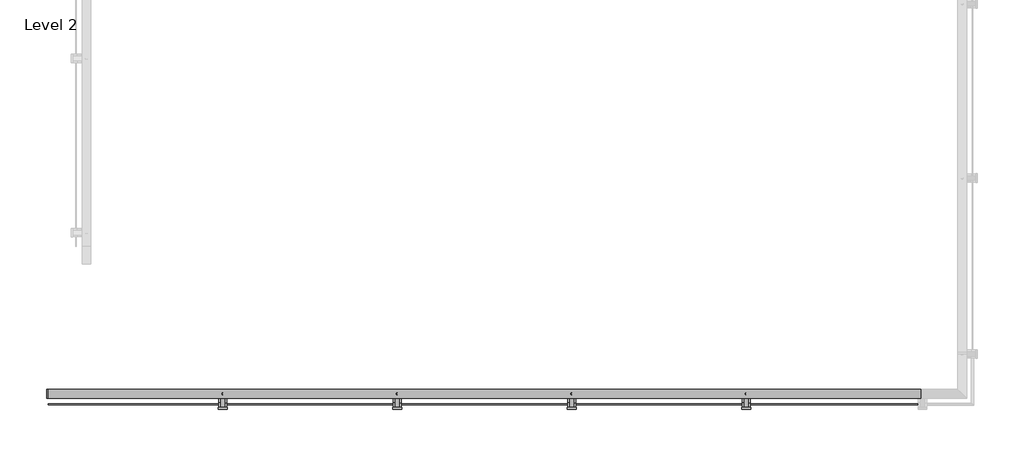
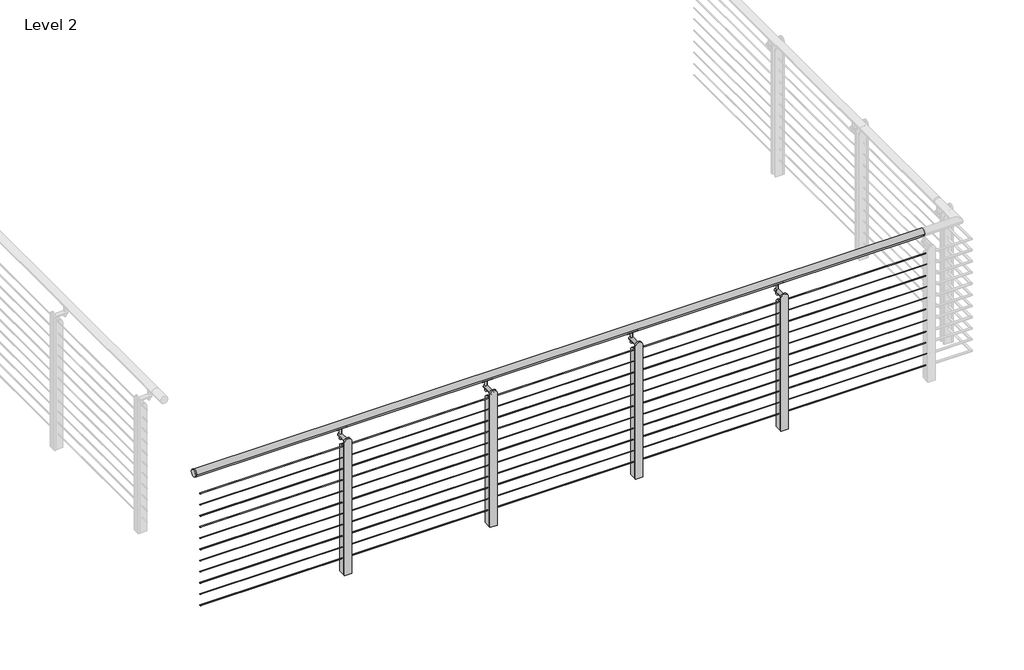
# One storey, part 10 of 12: 1 railing.
"""IFC4 building model written with IfcOpenShell, lengths in millimetres."""

from ifc_helpers import new_model, si_unit, point, frame, frame_2d, origin, place, context, project, spatial, polyline, circle_curve, trimmed, segment, composite_curve, outline, extrude, element, save
from ifc_brep_helpers import plane_surface, cylinder_surface, advanced_brep

model = new_model("IFC4")

# Units and contexts
model_context = context("Model", 3, world=origin())
ifc_project = project(units=[si_unit("LENGTHUNIT", "METRE", prefix="MILLI")], contexts=[model_context])

# Site, building, storey
site = spatial("IfcSite", under=ifc_project)
building = spatial("IfcBuilding", under=site)
storey = spatial("IfcBuildingStorey", under=building, Name="Level 2", Elevation=3048.0)

# Railing
placement = place(None, origin())
element("IfcRailing", 1, ObjectType="VIVA-TEE-Cable-Weld Mount-Straight", at=placement, inside=storey, context=model_context, shape_type="SolidModel", body=[
    advanced_brep(
    [(-4015.9071725, -1118.6784511, 4102.1), (-4015.9071725, -1067.8784511, 4102.1), (-9095.9071725, -1067.8784511, 4102.1), (-9095.9071725, -1118.6784511, 4102.1), (-9106.3387971, -1118.6784511, 4102.1), (-9106.3387971, -1067.8784511, 4102.1)],
    [
        (0, 1, circle_curve(frame((-4015.9071725, -1093.2784511, 4102.1), z_axis=(1.0, 0.0, 0.0), x_axis=(0.0, 1.0, 0.0)), 25.4)),
        (1, 0, circle_curve(frame((-4015.9071725, -1093.2784511, 4102.1), z_axis=(1.0, 0.0, 0.0), x_axis=(0.0, 1.0, 0.0)), 25.4)),
        (2, 3, circle_curve(frame((-9095.9071725, -1093.2784511, 4102.1), z_axis=(1.0, 0.0, 0.0), x_axis=(0.0, 1.0, 0.0)), 25.4)),
        (3, 0),
        (1, 2),
        (3, 2, circle_curve(frame((-9095.9071725, -1093.2784511, 4102.1), z_axis=(1.0, 0.0, 0.0), x_axis=(0.0, 1.0, 0.0)), 25.4)),
        (4, 5, circle_curve(frame((-9106.3387971, -1093.2784511, 4102.1), z_axis=(-1.0, 0.0, 0.0), x_axis=(0.0, 1.0, 0.0)), 25.4)),
        (5, 4, circle_curve(frame((-9106.3387971, -1093.2784511, 4102.1), z_axis=(-1.0, 0.0, 0.0), x_axis=(0.0, 1.0, 0.0)), 25.4)),
        (4, 3),
        (2, 5),
    ],
    [
        plane_surface(frame((-4015.9071725, -1093.2784511, 4127.5), z_axis=(1.0, 0.0, 0.0), x_axis=(0.0, 1.0, 0.0))),
        cylinder_surface(frame((-9095.9071725, -1093.2784511, 4102.1), z_axis=(-1.0, 0.0, 0.0), x_axis=(0.0, 1.0, 0.0)), 25.4),
        plane_surface(frame((-9106.3387971, -1093.2784511, 4127.5), z_axis=(-1.0, 0.0, 0.0), x_axis=(0.0, 1.0, 0.0))),
        cylinder_surface(frame((-9106.3387971, -1093.2784511, 4102.1), z_axis=(-1.0, 0.0, 0.0), x_axis=(0.0, 1.0, 0.0)), 25.4),
    ],
    [
        (0, [[1, 2]]),
        (1, [[3, 4, -2, 5]]),
        (1, [[6, -5, -1, -4]]),
        (2, [[7, 8]]),
        (3, [[-7, 9, -3, 10]]),
        (3, [[-8, -10, -6, -9]]),
    ],
),
    extrude(outline(composite_curve([segment(trimmed(circle_curve(frame_2d((-1153.6034511, 3985.4124)), 2.3876), [point((-1151.2158511, 3985.4124))], [point((-1155.9910511, 3985.4124))], False, "CARTESIAN"), True, "CONTINUOUS"), segment(trimmed(circle_curve(frame_2d((-1153.6034511, 3985.4124)), 2.3876), [point((-1155.9910511, 3985.4124))], [point((-1151.2158511, 3985.4124))], False, "CARTESIAN"), True, "CONTINUOUS")], self_intersect=False)), frame((-9095.9071725, 0.0, 0.0), z_axis=(1.0, 0.0, 0.0), x_axis=(0.0, 1.0, 0.0)), (0.0, 0.0, 1.0), 5080.0),
    extrude(outline(composite_curve([segment(trimmed(circle_curve(frame_2d((-1153.6034511, 3902.8624)), 2.3876), [point((-1151.2158511, 3902.8624))], [point((-1155.9910511, 3902.8624))], False, "CARTESIAN"), True, "CONTINUOUS"), segment(trimmed(circle_curve(frame_2d((-1153.6034511, 3902.8624)), 2.3876), [point((-1155.9910511, 3902.8624))], [point((-1151.2158511, 3902.8624))], False, "CARTESIAN"), True, "CONTINUOUS")], self_intersect=False)), frame((-9095.9071725, 0.0, 0.0), z_axis=(1.0, 0.0, 0.0), x_axis=(0.0, 1.0, 0.0)), (0.0, 0.0, 1.0), 5080.0),
    extrude(outline(composite_curve([segment(trimmed(circle_curve(frame_2d((-1153.6034511, 3820.3124)), 2.3876), [point((-1151.2158511, 3820.3124))], [point((-1155.9910511, 3820.3124))], False, "CARTESIAN"), True, "CONTINUOUS"), segment(trimmed(circle_curve(frame_2d((-1153.6034511, 3820.3124)), 2.3876), [point((-1155.9910511, 3820.3124))], [point((-1151.2158511, 3820.3124))], False, "CARTESIAN"), True, "CONTINUOUS")], self_intersect=False)), frame((-9095.9071725, 0.0, 0.0), z_axis=(1.0, 0.0, 0.0), x_axis=(0.0, 1.0, 0.0)), (0.0, 0.0, 1.0), 5080.0),
    extrude(outline(composite_curve([segment(trimmed(circle_curve(frame_2d((-1153.6034511, 3737.7624)), 2.3876), [point((-1151.2158511, 3737.7624))], [point((-1155.9910511, 3737.7624))], False, "CARTESIAN"), True, "CONTINUOUS"), segment(trimmed(circle_curve(frame_2d((-1153.6034511, 3737.7624)), 2.3876), [point((-1155.9910511, 3737.7624))], [point((-1151.2158511, 3737.7624))], False, "CARTESIAN"), True, "CONTINUOUS")], self_intersect=False)), frame((-9095.9071725, 0.0, 0.0), z_axis=(1.0, 0.0, 0.0), x_axis=(0.0, 1.0, 0.0)), (0.0, 0.0, 1.0), 5080.0),
    extrude(outline(composite_curve([segment(trimmed(circle_curve(frame_2d((-1153.6034511, 3655.2124)), 2.3876), [point((-1151.2158511, 3655.2124))], [point((-1155.9910511, 3655.2124))], False, "CARTESIAN"), True, "CONTINUOUS"), segment(trimmed(circle_curve(frame_2d((-1153.6034511, 3655.2124)), 2.3876), [point((-1155.9910511, 3655.2124))], [point((-1151.2158511, 3655.2124))], False, "CARTESIAN"), True, "CONTINUOUS")], self_intersect=False)), frame((-9095.9071725, 0.0, 0.0), z_axis=(1.0, 0.0, 0.0), x_axis=(0.0, 1.0, 0.0)), (0.0, 0.0, 1.0), 5080.0),
    extrude(outline(composite_curve([segment(trimmed(circle_curve(frame_2d((-1153.6034511, 3572.6624)), 2.3876), [point((-1151.2158511, 3572.6624))], [point((-1155.9910511, 3572.6624))], False, "CARTESIAN"), True, "CONTINUOUS"), segment(trimmed(circle_curve(frame_2d((-1153.6034511, 3572.6624)), 2.3876), [point((-1155.9910511, 3572.6624))], [point((-1151.2158511, 3572.6624))], False, "CARTESIAN"), True, "CONTINUOUS")], self_intersect=False)), frame((-9095.9071725, 0.0, 0.0), z_axis=(1.0, 0.0, 0.0), x_axis=(0.0, 1.0, 0.0)), (0.0, 0.0, 1.0), 5080.0),
    extrude(outline(composite_curve([segment(trimmed(circle_curve(frame_2d((-1153.6034511, 3490.1124)), 2.3876), [point((-1151.2158511, 3490.1124))], [point((-1155.9910511, 3490.1124))], False, "CARTESIAN"), True, "CONTINUOUS"), segment(trimmed(circle_curve(frame_2d((-1153.6034511, 3490.1124)), 2.3876), [point((-1155.9910511, 3490.1124))], [point((-1151.2158511, 3490.1124))], False, "CARTESIAN"), True, "CONTINUOUS")], self_intersect=False)), frame((-9095.9071725, 0.0, 0.0), z_axis=(1.0, 0.0, 0.0), x_axis=(0.0, 1.0, 0.0)), (0.0, 0.0, 1.0), 5080.0),
    extrude(outline(composite_curve([segment(trimmed(circle_curve(frame_2d((-1153.6034511, 3407.5624)), 2.3876), [point((-1151.2158511, 3407.5624))], [point((-1155.9910511, 3407.5624))], False, "CARTESIAN"), True, "CONTINUOUS"), segment(trimmed(circle_curve(frame_2d((-1153.6034511, 3407.5624)), 2.3876), [point((-1155.9910511, 3407.5624))], [point((-1151.2158511, 3407.5624))], False, "CARTESIAN"), True, "CONTINUOUS")], self_intersect=False)), frame((-9095.9071725, 0.0, 0.0), z_axis=(1.0, 0.0, 0.0), x_axis=(0.0, 1.0, 0.0)), (0.0, 0.0, 1.0), 5080.0),
    extrude(outline(composite_curve([segment(trimmed(circle_curve(frame_2d((-1153.6034511, 3325.0124)), 2.3876), [point((-1151.2158511, 3325.0124))], [point((-1155.9910511, 3325.0124))], False, "CARTESIAN"), True, "CONTINUOUS"), segment(trimmed(circle_curve(frame_2d((-1153.6034511, 3325.0124)), 2.3876), [point((-1155.9910511, 3325.0124))], [point((-1151.2158511, 3325.0124))], False, "CARTESIAN"), True, "CONTINUOUS")], self_intersect=False)), frame((-9095.9071725, 0.0, 0.0), z_axis=(1.0, 0.0, 0.0), x_axis=(0.0, 1.0, 0.0)), (0.0, 0.0, 1.0), 5080.0),
    extrude(outline(composite_curve([segment(trimmed(circle_curve(frame_2d((-1153.6034511, 3242.4624)), 2.3876), [point((-1151.2158511, 3242.4624))], [point((-1155.9910511, 3242.4624))], False, "CARTESIAN"), True, "CONTINUOUS"), segment(trimmed(circle_curve(frame_2d((-1153.6034511, 3242.4624)), 2.3876), [point((-1155.9910511, 3242.4624))], [point((-1151.2158511, 3242.4624))], False, "CARTESIAN"), True, "CONTINUOUS")], self_intersect=False)), frame((-9095.9071725, 0.0, 0.0), z_axis=(1.0, 0.0, 0.0), x_axis=(0.0, 1.0, 0.0)), (0.0, 0.0, 1.0), 5080.0),
    extrude(outline(composite_curve([segment(trimmed(circle_curve(frame_2d((-1153.6034511, 3159.9124)), 2.3876), [point((-1151.2158511, 3159.9124))], [point((-1155.9910511, 3159.9124))], False, "CARTESIAN"), True, "CONTINUOUS"), segment(trimmed(circle_curve(frame_2d((-1153.6034511, 3159.9124)), 2.3876), [point((-1155.9910511, 3159.9124))], [point((-1151.2158511, 3159.9124))], False, "CARTESIAN"), True, "CONTINUOUS")], self_intersect=False)), frame((-9095.9071725, 0.0, 0.0), z_axis=(1.0, 0.0, 0.0), x_axis=(0.0, 1.0, 0.0)), (0.0, 0.0, 1.0), 5080.0),
    extrude(outline(composite_curve([segment(trimmed(circle_curve(frame_2d((0.0, 7.0)), 7.0), [point((0.0, 14.0))], [point((0.0, 0.0))], False, "CARTESIAN"), True, "CONTINUOUS"), segment(trimmed(circle_curve(frame_2d((0.0, 7.0)), 7.0), [point((0.0, 0.0))], [point((0.0, 14.0))], False, "CARTESIAN"), True, "CONTINUOUS")], self_intersect=False)), frame((-5031.8334626, -1099.9883049, 3997.1832524), z_axis=(0.004253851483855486, 0.0, 0.9999909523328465), x_axis=(0.9999909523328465, 0.0, -0.004253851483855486)), (0.0, 0.0, 1.0), 75.97),
    extrude(outline(composite_curve([segment(trimmed(circle_curve(frame_2d((-1092.8469009, 4095.2025651)), 19.05), [point((-1106.3764891, 4081.7916463))], [point((-1079.3173126, 4081.7916463))], True, "CARTESIAN"), True, "CONTINUOUS"), segment(polyline([(-1079.3173126, 4081.7916463), (-1078.290923, 4080.7742593)]), True, "CONTINUOUS"), segment(trimmed(circle_curve(frame_2d((-1079.3469009, 4079.7089374)), 1.5), [point((-1078.290923, 4080.7742593))], [point((-1078.3614994, 4078.5780156))], False, "CARTESIAN"), True, "CONTINUOUS"), segment(trimmed(circle_curve(frame_2d((-1092.8469009, 4095.2025651)), 22.05), [point((-1078.3614994, 4078.5780156))], [point((-1107.3323023, 4078.5780156))], False, "CARTESIAN"), True, "CONTINUOUS"), segment(trimmed(circle_curve(frame_2d((-1106.3469009, 4079.7089374)), 1.5), [point((-1107.3323023, 4078.5780156))], [point((-1107.4028787, 4080.7742593))], False, "CARTESIAN"), True, "CONTINUOUS"), segment(polyline([(-1107.4028787, 4080.7742593), (-1106.3764891, 4081.7916463)]), True, "CONTINUOUS")], self_intersect=False)), frame((-5067.3719368, 0.0, 0.0), z_axis=(1.0, 0.0, 0.0), x_axis=(0.0, 1.0, 0.0)), (0.0, 0.0, 1.0), 74.5229187),
    extrude(outline(composite_curve([segment(trimmed(circle_curve(frame_2d((4024.1259188, -5031.6291322)), 12.5), [point((4024.1259188, -5044.1291322))], [point((4024.1259188, -5019.1291322))], False, "CARTESIAN"), True, "CONTINUOUS"), segment(trimmed(circle_curve(frame_2d((4024.1259188, -5031.6291322)), 12.5), [point((4024.1259188, -5019.1291322))], [point((4024.1259188, -5044.1291322))], False, "CARTESIAN"), True, "CONTINUOUS")], self_intersect=False)), frame((0.0, -1172.7542908, 0.0), z_axis=(0.0, 1.0, 0.0), x_axis=(0.0, 0.0, 1.0)), (0.0, 0.0, 1.0), 92.423),
    extrude(outline(composite_curve([segment(trimmed(circle_curve(frame_2d((-1146.5879996, 3972.2425)), 24.765), [point((-1146.5879996, 3997.0075))], [point((-1121.8229996, 3972.2425))], False, "CARTESIAN"), True, "CONTINUOUS"), segment(polyline([(-1121.8229996, 3972.2425), (-1121.8229996, 3048.0), (-1172.6534511, 3048.0), (-1172.6534511, 3997.0075), (-1146.5879996, 3997.0075)]), True, "CONTINUOUS")], self_intersect=False)), frame((-5017.506798, 0.0, 0.0), z_axis=(1.0, 0.0, 0.0), x_axis=(0.0, 1.0, 0.0)), (0.0, 0.0, 1.0), 9.525),
    extrude(outline(composite_curve([segment(polyline([(3048.0, -5006.1102975), (4027.17, -5006.1102975)]), True, "CONTINUOUS"), segment(trimmed(circle_curve(frame_2d((4027.17, -5031.5102975)), 25.4), [point((4027.17, -5006.1102975))], [point((4027.17, -5056.9102975))], False, "CARTESIAN"), True, "CONTINUOUS"), segment(polyline([(4027.17, -5056.9102975), (3048.0, -5056.9102975), (3048.0, -5006.1102975)]), True, "CONTINUOUS")], self_intersect=False)), frame((0.0, -1182.1784511, 0.0), z_axis=(0.0, 1.0, 0.0), x_axis=(0.0, 0.0, 1.0)), (0.0, 0.0, 1.0), 9.525),
    extrude(outline(composite_curve([segment(trimmed(circle_curve(frame_2d((-1146.5879996, 3972.2425)), 24.765), [point((-1146.5879996, 3997.0075))], [point((-1121.8229996, 3972.2425))], False, "CARTESIAN"), True, "CONTINUOUS"), segment(polyline([(-1121.8229996, 3972.2425), (-1121.8229996, 3048.0), (-1172.6534511, 3048.0), (-1172.6534511, 3997.0075), (-1146.5879996, 3997.0075)]), True, "CONTINUOUS")], self_intersect=False)), frame((-5055.0387971, 0.0, 0.0), z_axis=(1.0, 0.0, 0.0), x_axis=(0.0, 1.0, 0.0)), (0.0, 0.0, 1.0), 9.525),
    extrude(outline(composite_curve([segment(trimmed(circle_curve(frame_2d((0.0, 7.0)), 7.0), [point((0.0, 14.0))], [point((0.0, 0.0))], False, "CARTESIAN"), True, "CONTINUOUS"), segment(trimmed(circle_curve(frame_2d((0.0, 7.0)), 7.0), [point((0.0, 0.0))], [point((0.0, 14.0))], False, "CARTESIAN"), True, "CONTINUOUS")], self_intersect=False)), frame((-6047.8334626, -1099.9883049, 3997.1832524), z_axis=(0.004253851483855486, 0.0, 0.9999909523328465), x_axis=(0.9999909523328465, 0.0, -0.004253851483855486)), (0.0, 0.0, 1.0), 75.97),
    extrude(outline(composite_curve([segment(trimmed(circle_curve(frame_2d((-1092.8469009, 4095.2025651)), 19.05), [point((-1106.3764891, 4081.7916463))], [point((-1079.3173126, 4081.7916463))], True, "CARTESIAN"), True, "CONTINUOUS"), segment(polyline([(-1079.3173126, 4081.7916463), (-1078.290923, 4080.7742593)]), True, "CONTINUOUS"), segment(trimmed(circle_curve(frame_2d((-1079.3469009, 4079.7089374)), 1.5), [point((-1078.290923, 4080.7742593))], [point((-1078.3614994, 4078.5780156))], False, "CARTESIAN"), True, "CONTINUOUS"), segment(trimmed(circle_curve(frame_2d((-1092.8469009, 4095.2025651)), 22.05), [point((-1078.3614994, 4078.5780156))], [point((-1107.3323023, 4078.5780156))], False, "CARTESIAN"), True, "CONTINUOUS"), segment(trimmed(circle_curve(frame_2d((-1106.3469009, 4079.7089374)), 1.5), [point((-1107.3323023, 4078.5780156))], [point((-1107.4028787, 4080.7742593))], False, "CARTESIAN"), True, "CONTINUOUS"), segment(polyline([(-1107.4028787, 4080.7742593), (-1106.3764891, 4081.7916463)]), True, "CONTINUOUS")], self_intersect=False)), frame((-6083.3719368, 0.0, 0.0), z_axis=(1.0, 0.0, 0.0), x_axis=(0.0, 1.0, 0.0)), (0.0, 0.0, 1.0), 74.5229187),
    extrude(outline(composite_curve([segment(trimmed(circle_curve(frame_2d((4024.1259188, -6047.6291322)), 12.5), [point((4024.1259188, -6060.1291322))], [point((4024.1259188, -6035.1291322))], False, "CARTESIAN"), True, "CONTINUOUS"), segment(trimmed(circle_curve(frame_2d((4024.1259188, -6047.6291322)), 12.5), [point((4024.1259188, -6035.1291322))], [point((4024.1259188, -6060.1291322))], False, "CARTESIAN"), True, "CONTINUOUS")], self_intersect=False)), frame((0.0, -1172.7542908, 0.0), z_axis=(0.0, 1.0, 0.0), x_axis=(0.0, 0.0, 1.0)), (0.0, 0.0, 1.0), 92.423),
    extrude(outline(composite_curve([segment(trimmed(circle_curve(frame_2d((-1146.5879996, 3972.2425)), 24.765), [point((-1146.5879996, 3997.0075))], [point((-1121.8229996, 3972.2425))], False, "CARTESIAN"), True, "CONTINUOUS"), segment(polyline([(-1121.8229996, 3972.2425), (-1121.8229996, 3048.0), (-1172.6534511, 3048.0), (-1172.6534511, 3997.0075), (-1146.5879996, 3997.0075)]), True, "CONTINUOUS")], self_intersect=False)), frame((-6033.506798, 0.0, 0.0), z_axis=(1.0, 0.0, 0.0), x_axis=(0.0, 1.0, 0.0)), (0.0, 0.0, 1.0), 9.525),
    extrude(outline(composite_curve([segment(polyline([(3048.0, -6022.1102975), (4027.17, -6022.1102975)]), True, "CONTINUOUS"), segment(trimmed(circle_curve(frame_2d((4027.17, -6047.5102975)), 25.4), [point((4027.17, -6022.1102975))], [point((4027.17, -6072.9102975))], False, "CARTESIAN"), True, "CONTINUOUS"), segment(polyline([(4027.17, -6072.9102975), (3048.0, -6072.9102975), (3048.0, -6022.1102975)]), True, "CONTINUOUS")], self_intersect=False)), frame((0.0, -1182.1784511, 0.0), z_axis=(0.0, 1.0, 0.0), x_axis=(0.0, 0.0, 1.0)), (0.0, 0.0, 1.0), 9.525),
    extrude(outline(composite_curve([segment(trimmed(circle_curve(frame_2d((-1146.5879996, 3972.2425)), 24.765), [point((-1146.5879996, 3997.0075))], [point((-1121.8229996, 3972.2425))], False, "CARTESIAN"), True, "CONTINUOUS"), segment(polyline([(-1121.8229996, 3972.2425), (-1121.8229996, 3048.0), (-1172.6534511, 3048.0), (-1172.6534511, 3997.0075), (-1146.5879996, 3997.0075)]), True, "CONTINUOUS")], self_intersect=False)), frame((-6071.0387971, 0.0, 0.0), z_axis=(1.0, 0.0, 0.0), x_axis=(0.0, 1.0, 0.0)), (0.0, 0.0, 1.0), 9.525),
    extrude(outline(composite_curve([segment(trimmed(circle_curve(frame_2d((0.0, 7.0)), 7.0), [point((0.0, 14.0))], [point((0.0, 0.0))], False, "CARTESIAN"), True, "CONTINUOUS"), segment(trimmed(circle_curve(frame_2d((0.0, 7.0)), 7.0), [point((0.0, 0.0))], [point((0.0, 14.0))], False, "CARTESIAN"), True, "CONTINUOUS")], self_intersect=False)), frame((-7063.8334626, -1099.9883049, 3997.1832524), z_axis=(0.004253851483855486, 0.0, 0.9999909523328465), x_axis=(0.9999909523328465, 0.0, -0.004253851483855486)), (0.0, 0.0, 1.0), 75.97),
    extrude(outline(composite_curve([segment(trimmed(circle_curve(frame_2d((-1092.8469009, 4095.2025651)), 19.05), [point((-1106.3764891, 4081.7916463))], [point((-1079.3173126, 4081.7916463))], True, "CARTESIAN"), True, "CONTINUOUS"), segment(polyline([(-1079.3173126, 4081.7916463), (-1078.290923, 4080.7742593)]), True, "CONTINUOUS"), segment(trimmed(circle_curve(frame_2d((-1079.3469009, 4079.7089374)), 1.5), [point((-1078.290923, 4080.7742593))], [point((-1078.3614994, 4078.5780156))], False, "CARTESIAN"), True, "CONTINUOUS"), segment(trimmed(circle_curve(frame_2d((-1092.8469009, 4095.2025651)), 22.05), [point((-1078.3614994, 4078.5780156))], [point((-1107.3323023, 4078.5780156))], False, "CARTESIAN"), True, "CONTINUOUS"), segment(trimmed(circle_curve(frame_2d((-1106.3469009, 4079.7089374)), 1.5), [point((-1107.3323023, 4078.5780156))], [point((-1107.4028787, 4080.7742593))], False, "CARTESIAN"), True, "CONTINUOUS"), segment(polyline([(-1107.4028787, 4080.7742593), (-1106.3764891, 4081.7916463)]), True, "CONTINUOUS")], self_intersect=False)), frame((-7099.3719368, 0.0, 0.0), z_axis=(1.0, 0.0, 0.0), x_axis=(0.0, 1.0, 0.0)), (0.0, 0.0, 1.0), 74.5229187),
    extrude(outline(composite_curve([segment(trimmed(circle_curve(frame_2d((4024.1259188, -7063.6291322)), 12.5), [point((4024.1259188, -7076.1291322))], [point((4024.1259188, -7051.1291322))], False, "CARTESIAN"), True, "CONTINUOUS"), segment(trimmed(circle_curve(frame_2d((4024.1259188, -7063.6291322)), 12.5), [point((4024.1259188, -7051.1291322))], [point((4024.1259188, -7076.1291322))], False, "CARTESIAN"), True, "CONTINUOUS")], self_intersect=False)), frame((0.0, -1172.7542908, 0.0), z_axis=(0.0, 1.0, 0.0), x_axis=(0.0, 0.0, 1.0)), (0.0, 0.0, 1.0), 92.423),
    extrude(outline(composite_curve([segment(trimmed(circle_curve(frame_2d((-1146.5879996, 3972.2425)), 24.765), [point((-1146.5879996, 3997.0075))], [point((-1121.8229996, 3972.2425))], False, "CARTESIAN"), True, "CONTINUOUS"), segment(polyline([(-1121.8229996, 3972.2425), (-1121.8229996, 3048.0), (-1172.6534511, 3048.0), (-1172.6534511, 3997.0075), (-1146.5879996, 3997.0075)]), True, "CONTINUOUS")], self_intersect=False)), frame((-7049.506798, 0.0, 0.0), z_axis=(1.0, 0.0, 0.0), x_axis=(0.0, 1.0, 0.0)), (0.0, 0.0, 1.0), 9.525),
    extrude(outline(composite_curve([segment(polyline([(3048.0, -7038.1102975), (4027.17, -7038.1102975)]), True, "CONTINUOUS"), segment(trimmed(circle_curve(frame_2d((4027.17, -7063.5102975)), 25.4), [point((4027.17, -7038.1102975))], [point((4027.17, -7088.9102975))], False, "CARTESIAN"), True, "CONTINUOUS"), segment(polyline([(4027.17, -7088.9102975), (3048.0, -7088.9102975), (3048.0, -7038.1102975)]), True, "CONTINUOUS")], self_intersect=False)), frame((0.0, -1182.1784511, 0.0), z_axis=(0.0, 1.0, 0.0), x_axis=(0.0, 0.0, 1.0)), (0.0, 0.0, 1.0), 9.525),
    extrude(outline(composite_curve([segment(trimmed(circle_curve(frame_2d((-1146.5879996, 3972.2425)), 24.765), [point((-1146.5879996, 3997.0075))], [point((-1121.8229996, 3972.2425))], False, "CARTESIAN"), True, "CONTINUOUS"), segment(polyline([(-1121.8229996, 3972.2425), (-1121.8229996, 3048.0), (-1172.6534511, 3048.0), (-1172.6534511, 3997.0075), (-1146.5879996, 3997.0075)]), True, "CONTINUOUS")], self_intersect=False)), frame((-7087.0387971, 0.0, 0.0), z_axis=(1.0, 0.0, 0.0), x_axis=(0.0, 1.0, 0.0)), (0.0, 0.0, 1.0), 9.525),
    extrude(outline(composite_curve([segment(trimmed(circle_curve(frame_2d((0.0, 7.0)), 7.0), [point((0.0, 14.0))], [point((0.0, 0.0))], False, "CARTESIAN"), True, "CONTINUOUS"), segment(trimmed(circle_curve(frame_2d((0.0, 7.0)), 7.0), [point((0.0, 0.0))], [point((0.0, 14.0))], False, "CARTESIAN"), True, "CONTINUOUS")], self_intersect=False)), frame((-8079.8334626, -1099.9883049, 3997.1832524), z_axis=(0.004253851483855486, 0.0, 0.9999909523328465), x_axis=(0.9999909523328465, 0.0, -0.004253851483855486)), (0.0, 0.0, 1.0), 75.97),
    extrude(outline(composite_curve([segment(trimmed(circle_curve(frame_2d((-1092.8469009, 4095.2025651)), 19.05), [point((-1106.3764891, 4081.7916463))], [point((-1079.3173126, 4081.7916463))], True, "CARTESIAN"), True, "CONTINUOUS"), segment(polyline([(-1079.3173126, 4081.7916463), (-1078.290923, 4080.7742593)]), True, "CONTINUOUS"), segment(trimmed(circle_curve(frame_2d((-1079.3469009, 4079.7089374)), 1.5), [point((-1078.290923, 4080.7742593))], [point((-1078.3614994, 4078.5780156))], False, "CARTESIAN"), True, "CONTINUOUS"), segment(trimmed(circle_curve(frame_2d((-1092.8469009, 4095.2025651)), 22.05), [point((-1078.3614994, 4078.5780156))], [point((-1107.3323023, 4078.5780156))], False, "CARTESIAN"), True, "CONTINUOUS"), segment(trimmed(circle_curve(frame_2d((-1106.3469009, 4079.7089374)), 1.5), [point((-1107.3323023, 4078.5780156))], [point((-1107.4028787, 4080.7742593))], False, "CARTESIAN"), True, "CONTINUOUS"), segment(polyline([(-1107.4028787, 4080.7742593), (-1106.3764891, 4081.7916463)]), True, "CONTINUOUS")], self_intersect=False)), frame((-8115.3719368, 0.0, 0.0), z_axis=(1.0, 0.0, 0.0), x_axis=(0.0, 1.0, 0.0)), (0.0, 0.0, 1.0), 74.5229187),
    extrude(outline(composite_curve([segment(trimmed(circle_curve(frame_2d((4024.1259188, -8079.6291322)), 12.5), [point((4024.1259188, -8092.1291322))], [point((4024.1259188, -8067.1291322))], False, "CARTESIAN"), True, "CONTINUOUS"), segment(trimmed(circle_curve(frame_2d((4024.1259188, -8079.6291322)), 12.5), [point((4024.1259188, -8067.1291322))], [point((4024.1259188, -8092.1291322))], False, "CARTESIAN"), True, "CONTINUOUS")], self_intersect=False)), frame((0.0, -1172.7542908, 0.0), z_axis=(0.0, 1.0, 0.0), x_axis=(0.0, 0.0, 1.0)), (0.0, 0.0, 1.0), 92.423),
    extrude(outline(composite_curve([segment(trimmed(circle_curve(frame_2d((-1146.5879996, 3972.2425)), 24.765), [point((-1146.5879996, 3997.0075))], [point((-1121.8229996, 3972.2425))], False, "CARTESIAN"), True, "CONTINUOUS"), segment(polyline([(-1121.8229996, 3972.2425), (-1121.8229996, 3048.0), (-1172.6534511, 3048.0), (-1172.6534511, 3997.0075), (-1146.5879996, 3997.0075)]), True, "CONTINUOUS")], self_intersect=False)), frame((-8065.506798, 0.0, 0.0), z_axis=(1.0, 0.0, 0.0), x_axis=(0.0, 1.0, 0.0)), (0.0, 0.0, 1.0), 9.525),
    extrude(outline(composite_curve([segment(polyline([(3048.0, -8054.1102975), (4027.17, -8054.1102975)]), True, "CONTINUOUS"), segment(trimmed(circle_curve(frame_2d((4027.17, -8079.5102975)), 25.4), [point((4027.17, -8054.1102975))], [point((4027.17, -8104.9102975))], False, "CARTESIAN"), True, "CONTINUOUS"), segment(polyline([(4027.17, -8104.9102975), (3048.0, -8104.9102975), (3048.0, -8054.1102975)]), True, "CONTINUOUS")], self_intersect=False)), frame((0.0, -1182.1784511, 0.0), z_axis=(0.0, 1.0, 0.0), x_axis=(0.0, 0.0, 1.0)), (0.0, 0.0, 1.0), 9.525),
    extrude(outline(composite_curve([segment(trimmed(circle_curve(frame_2d((-1146.5879996, 3972.2425)), 24.765), [point((-1146.5879996, 3997.0075))], [point((-1121.8229996, 3972.2425))], False, "CARTESIAN"), True, "CONTINUOUS"), segment(polyline([(-1121.8229996, 3972.2425), (-1121.8229996, 3048.0), (-1172.6534511, 3048.0), (-1172.6534511, 3997.0075), (-1146.5879996, 3997.0075)]), True, "CONTINUOUS")], self_intersect=False)), frame((-8103.0387971, 0.0, 0.0), z_axis=(1.0, 0.0, 0.0), x_axis=(0.0, 1.0, 0.0)), (0.0, 0.0, 1.0), 9.525),
])

save(model, "model.ifc")
